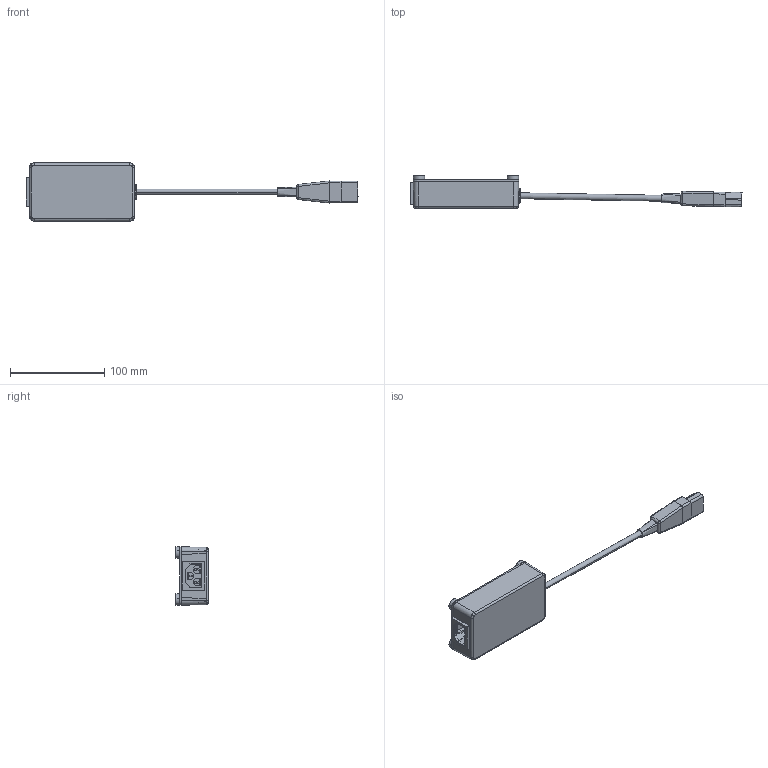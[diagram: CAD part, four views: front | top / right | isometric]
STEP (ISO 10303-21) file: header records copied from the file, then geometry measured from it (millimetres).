
FILE_DESCRIPTION (( 'STEP AP214' ), '1' );
FILE_NAME ('PMF06-10A.STEP', '2015-02-06T08:41:11', ( '' ), ( '' ), 'SwSTEP 2.0', 'SolidWorks 2014', '' );
FILE_SCHEMA (( 'AUTOMOTIVE_DESIGN' ));
Length unit declared in the file: millimetre
Products named in the file (9): CR-FHM1 0.112-40x0.5x0.5-S_CR-FHM1 0.112-40x0.5x0.5-S; LDS008; PIP Blue; SKT09; FIX173; GRO053; BOX19; PMF06-10A
Assembly tree (14 placements, depth 3):
  PMF06-10A
    BOX19
    GRO053
    FIX173  x4
    SKT09
    LDS008
      LDS008
      PIP Blue
    CR-FHM1 0.112-40x0.5x0.5-S_CR-FHM1 0.112-40x0.5x0.5-S  x4
Bounding box: 353 x 34.5 x 62 mm (x, y, z)
Volume: 78424.7 mm3; surface area: 66995.4 mm2
Topology: 14 solids, 14 shells, 1047 faces, 2702 edges, 1705 vertices
Faces by surface type: cone 370, plane 368, cylinder 249, bspline 54, sphere 4, torus 2
Entity records: 30738 total; most frequent: CARTESIAN_POINT 10834, ORIENTED_EDGE 3320, DIRECTION 2895, EDGE_CURVE 1660, VERTEX_POINT 1069, LINE 1011, VECTOR 1011, AXIS2_PLACEMENT_3D 942
